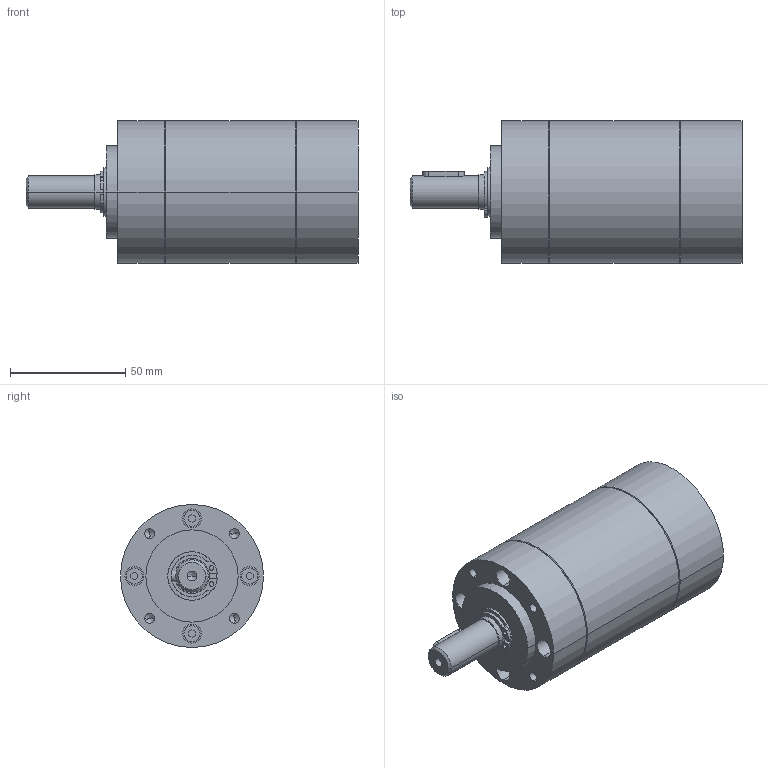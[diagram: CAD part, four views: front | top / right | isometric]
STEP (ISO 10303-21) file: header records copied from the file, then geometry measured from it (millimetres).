
FILE_DESCRIPTION((''),'2;1');
FILE_NAME('110504_GP62A-3ST','2017-11-21T',('mmagpetk'),(''),'CREO PARAMETRIC BY PTC INC, 2017020','CREO PARAMETRIC BY PTC INC, 2017020','');
FILE_SCHEMA(('CONFIG_CONTROL_DESIGN'));
Length unit declared in the file: millimetre
Products named in the file (1): 110504_GP62A-3ST
Bounding box: 144 x 62 x 62 mm (x, y, z)
Volume: 323808.5 mm3; surface area: 31105.1 mm2
Topology: 1 solids, 1 shells, 128 faces, 306 edges, 192 vertices
Faces by surface type: plane 55, cylinder 53, cone 20
Entity records: 5361 total; most frequent: DIRECTION 673, CARTESIAN_POINT 652, ORIENTED_EDGE 592, PRESENTATION_STYLE_ASSIGNMENT 353, STYLED_ITEM 297, CURVE_STYLE 296, EDGE_CURVE 296, AXIS2_PLACEMENT_3D 253
